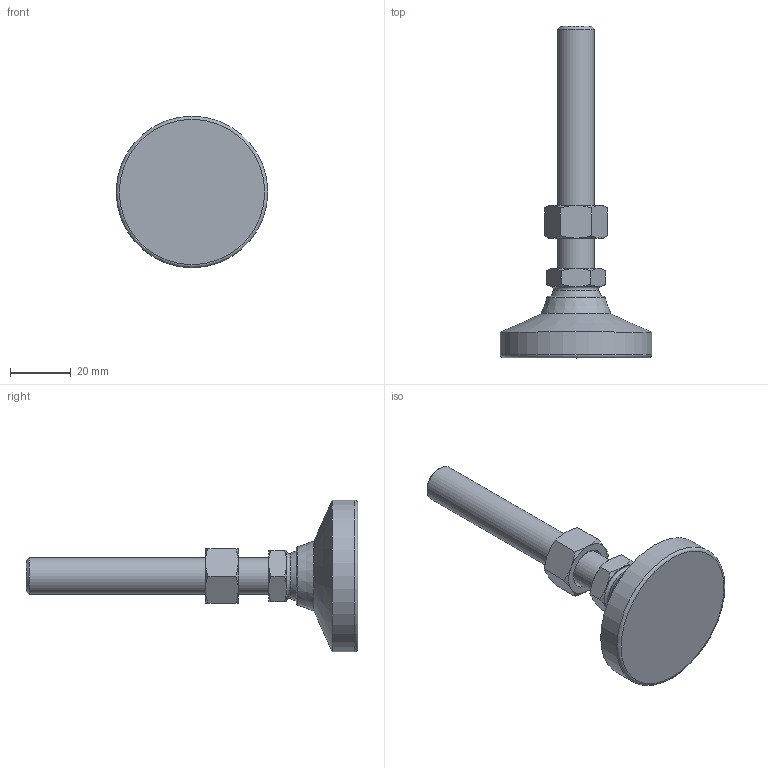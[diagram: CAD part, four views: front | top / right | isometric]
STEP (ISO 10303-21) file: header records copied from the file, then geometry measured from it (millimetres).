
FILE_DESCRIPTION( ( 'STEP AP214' ), ' ' );
FILE_NAME( 'O:/ganter_2015/teil_2/2_5/gn343_2/gn343_2_kr/Levelling foot with threaded stud GN 343.2-50-M12-80-KR-(0).stp', '2015-10-26T09:13:49', ( '' ), ( '' ), ' ', 'PARTsolutions', ' ' );
FILE_SCHEMA( ( 'AUTOMOTIVE_DESIGN { 1 0 10303 214 1 1 1 1 }' ) );
Length unit declared in the file: millimetre
Products named in the file (4): Levelling foot with threaded stud GN 343.2-50-M12-80-KR-(0); _Levelling foot with threaded stud GN 343.2-50-M12-80-KR-(0)_foot; _Levelling foot with threaded stud GN 343.2-50-M12-80-KR-(0)_screw; _Levelling foot with threaded stud GN 343.2-50-M12-80-KR-(0)_nut
Assembly tree (3 placements, depth 2):
  Levelling foot with threaded stud GN 343.2-50-M12-80-KR-(0)
    _Levelling foot with threaded stud GN 343.2-50-M12-80-KR-(0)_foot
    _Levelling foot with threaded stud GN 343.2-50-M12-80-KR-(0)_screw
    _Levelling foot with threaded stud GN 343.2-50-M12-80-KR-(0)_nut
Bounding box: 50 x 109.5 x 50 mm (x, y, z)
Volume: 38445.7 mm3; surface area: 11780.9 mm2
Topology: 3 solids, 3 shells, 56 faces, 117 edges, 68 vertices
Faces by surface type: cone 29, plane 19, torus 3, cylinder 3, sphere 2
Full cylindrical faces by diameter (mm): 10.106 x1, 12 x1, 50 x1
Entity records: 2066 total; most frequent: CARTESIAN_POINT 498, DIRECTION 212, ORIENTED_EDGE 200, AXIS2_PLACEMENT_3D 100, EDGE_CURVE 100, EDGE_LOOP 72, VERTEX_POINT 66, FACE_OUTER_BOUND 62
